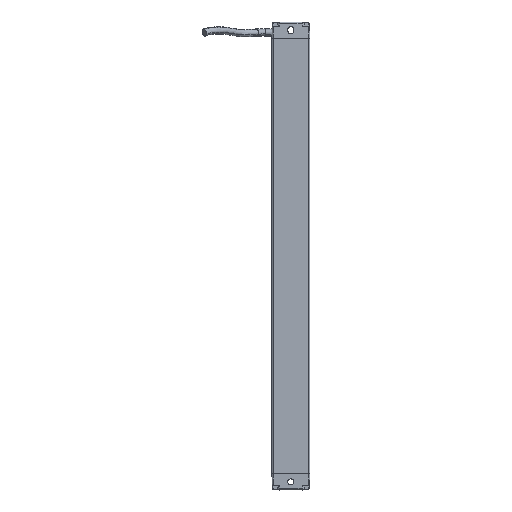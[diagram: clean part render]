
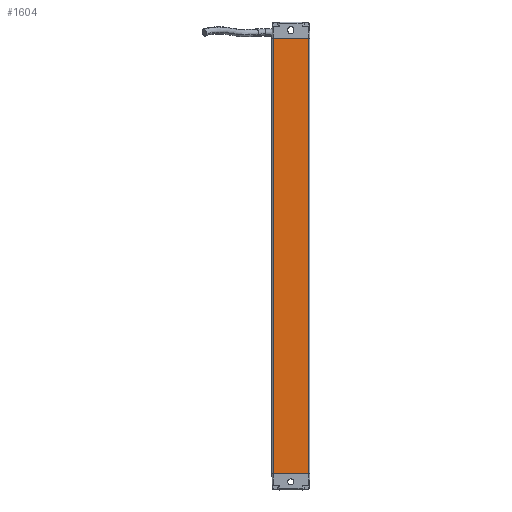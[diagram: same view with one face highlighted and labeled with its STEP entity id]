
A CAD part, front view. The second image highlights one B-rep face of the part: STEP entity #1604.
In plain terms, the highlighted planar face has unit normal (-0.001, -1, 0).
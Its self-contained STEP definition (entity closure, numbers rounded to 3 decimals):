
#1604=ADVANCED_FACE('',(#2720),#2349,.T.);
#2349=PLANE('',#14604);
#2720=FACE_OUTER_BOUND('',#3441,.T.);
#3441=EDGE_LOOP('',(#4477,#4478,#4479,#4480));
#4477=ORIENTED_EDGE('',*,*,#10104,.T.);
#4478=ORIENTED_EDGE('',*,*,#10057,.F.);
#4479=ORIENTED_EDGE('',*,*,#10102,.T.);
#4480=ORIENTED_EDGE('',*,*,#10105,.T.);
#8601=VERTEX_POINT('',#19860);
#8602=VERTEX_POINT('',#19862);
#8639=VERTEX_POINT('',#19951);
#8640=VERTEX_POINT('',#19955);
#10057=EDGE_CURVE('',#8601,#8602,#12174,.T.);
#10102=EDGE_CURVE('',#8601,#8639,#12205,.T.);
#10104=EDGE_CURVE('',#8640,#8602,#12206,.T.);
#10105=EDGE_CURVE('',#8639,#8640,#12207,.T.);
#12174=LINE('',#19861,#13389);
#12205=LINE('',#19950,#13420);
#12206=LINE('',#19954,#13421);
#12207=LINE('',#19956,#13422);
#13389=VECTOR('',#16033,1.);
#13420=VECTOR('',#16106,1.);
#13421=VECTOR('',#16111,1.);
#13422=VECTOR('',#16112,1.);
#14604=AXIS2_PLACEMENT_3D('',#19957,#16113,#16114);
#16033=DIRECTION('',(1.,-0.001,0.));
#16106=DIRECTION('',(0.,0.,-1.));
#16111=DIRECTION('',(0.,0.,1.));
#16112=DIRECTION('',(1.,-0.001,0.));
#16113=DIRECTION('',(-0.001,-1.,0.));
#16114=DIRECTION('',(1.,-0.001,0.));
#19860=CARTESIAN_POINT('',(53.048,-142.376,520.376));
#19861=CARTESIAN_POINT('',(79.028,-142.395,520.376));
#19862=CARTESIAN_POINT('',(79.028,-142.395,520.376));
#19950=CARTESIAN_POINT('',(53.048,-142.376,543.376));
#19951=CARTESIAN_POINT('',(53.048,-142.376,198.376));
#19954=CARTESIAN_POINT('',(79.028,-142.395,198.376));
#19955=CARTESIAN_POINT('',(79.028,-142.395,198.376));
#19956=CARTESIAN_POINT('',(53.048,-142.376,198.376));
#19957=CARTESIAN_POINT('',(79.028,-142.395,543.376));
